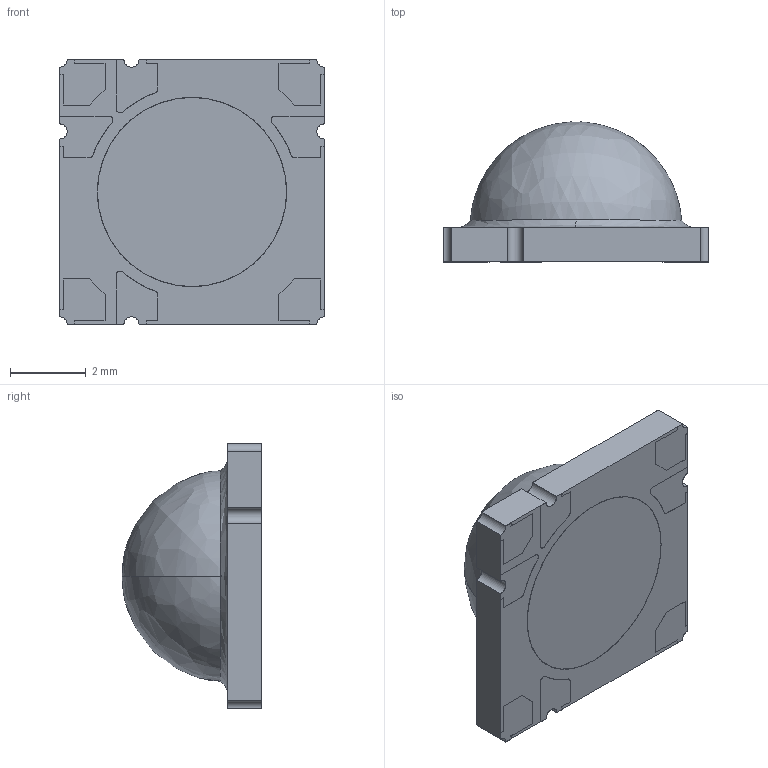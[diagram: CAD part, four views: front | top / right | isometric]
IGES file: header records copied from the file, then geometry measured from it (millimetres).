
Start section: SolidWorks IGES file using analytic representation for surfaces
Global section: file name: C:\P-Gold\Projects\Emitter_Packages\LZ4-10(10W)_07x07\Ceramic_07x07_Flexible\Release_LZ4-00XX08-P3_RevA_11-29-12\LZ4-00XX08-P3_LZ4-Emitter-Dome-Lens_RevA.IGS; native system: SolidWorks 2011; preprocessor: SolidWorks 2011; author: dadebiyi; date: 121129.092610; units: millimetre
Bounding box: 7 x 3.7 x 7 mm (x, y, z)
Surface area: 355.3 mm2 (no closed solid volume)
Topology: 0 solids, 0 shells, 287 faces, 2425 edges, 2421 vertices
Faces by surface type: bspline 210, revolution 77
